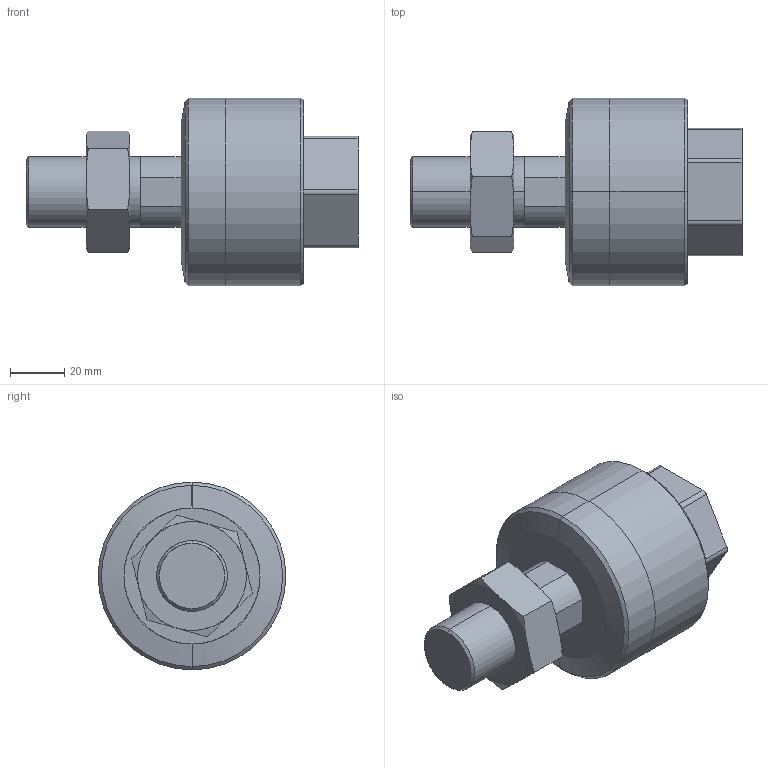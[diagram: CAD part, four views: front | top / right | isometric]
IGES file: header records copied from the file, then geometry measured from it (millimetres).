
Start section: SolidWorks IGES file using analytic representation for surfaces
Global section: file name: D:\MI\新增資料夾\FC\FCM26A-1.5.IGS; native system: SolidWorks 2013; preprocessor: SolidWorks 2013; author: Sam Lin; date: 160323.114240; units: millimetre
Bounding box: 122 x 69 x 69 mm (x, y, z)
Surface area: 31007 mm2 (no closed solid volume)
Topology: 0 solids, 0 shells, 67 faces, 926 edges, 926 vertices
Faces by surface type: bspline 39, revolution 28
